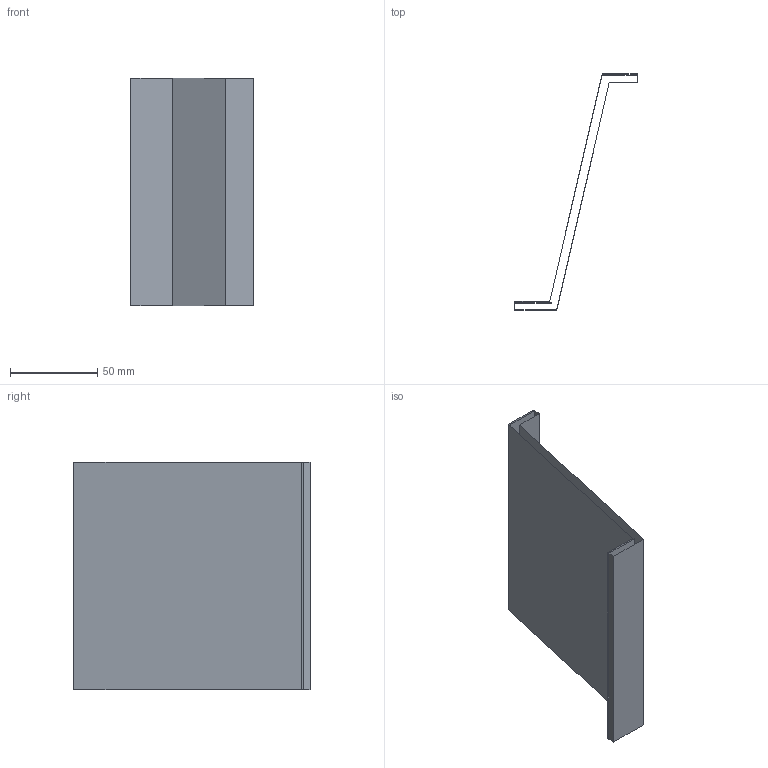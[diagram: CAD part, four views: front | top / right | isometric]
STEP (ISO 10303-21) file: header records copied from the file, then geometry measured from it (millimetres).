
FILE_DESCRIPTION(('CATIA V5 STEP Exchange'),'2;1');
FILE_NAME('C:\_Andres\UNIVERSIDAD\IQS\ASIGNATURAS\DAO\EXF\EXF-16172c\2inicio\Salazar_Martin_Ej06_v30.stp','2017-03-05T21:01:28+00:00',('none'),('none'),'CATIA Version 5-6 Release 2014 SP1 HF18','CATIA V5 STEP AP203','none');
FILE_SCHEMA(('CONFIG_CONTROL_DESIGN'));
Length unit declared in the file: millimetre
Products named in the file (1): Salazar_Martin_Ej06_v30
Bounding box: 70 x 135 x 130 mm (x, y, z)
Surface area: 51328.3 mm2 (no closed solid volume)
Topology: 0 solids, 2 shells, 10 faces, 42 edges, 36 vertices
Faces by surface type: plane 10
Entity records: 461 total; most frequent: CARTESIAN_POINT 100, DIRECTION 59, ORIENTED_EDGE 40, VECTOR 39, LINE 39, EDGE_CURVE 32, VERTEX_POINT 24, AXIS2_PLACEMENT_3D 11
